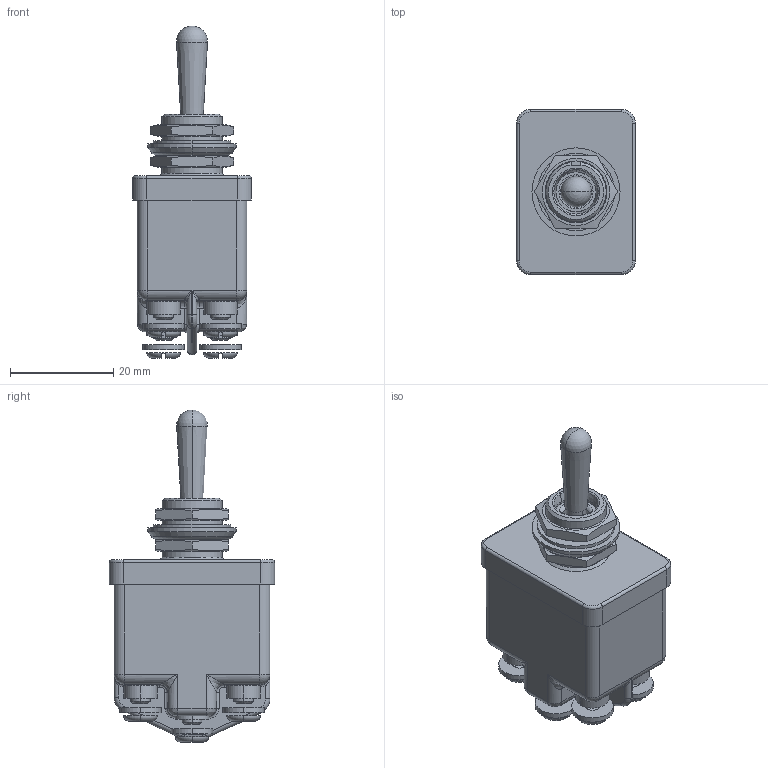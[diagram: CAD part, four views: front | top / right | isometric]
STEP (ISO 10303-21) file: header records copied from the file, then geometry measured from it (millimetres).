
FILE_DESCRIPTION((''),'2;1');
FILE_NAME('3541-001G012__SW0003','2011-10-27T',('jlgachon'),(''),'PRO/ENGINEER BY PARAMETRIC TECHNOLOGY CORPORATION, 2011250','PRO/ENGINEER BY PARAMETRIC TECHNOLOGY CORPORATION, 2011250','');
FILE_SCHEMA(('CONFIG_CONTROL_DESIGN'));
Length unit declared in the file: millimetre
Products named in the file (1): 3541-001G012__SW0003
Bounding box: 23 x 32 x 64.3 mm (x, y, z)
Surface area: 7119.4 mm2 (no closed solid volume)
Topology: 0 solids, 33 shells, 284 faces, 759 edges, 491 vertices
Faces by surface type: cylinder 102, plane 82, torus 42, cone 40, bspline 12, sphere 6
Entity records: 9987 total; most frequent: CARTESIAN_POINT 2862, DIRECTION 1628, ORIENTED_EDGE 1294, EDGE_CURVE 757, AXIS2_PLACEMENT_3D 683, VERTEX_POINT 491, CIRCLE 411, EDGE_LOOP 316
